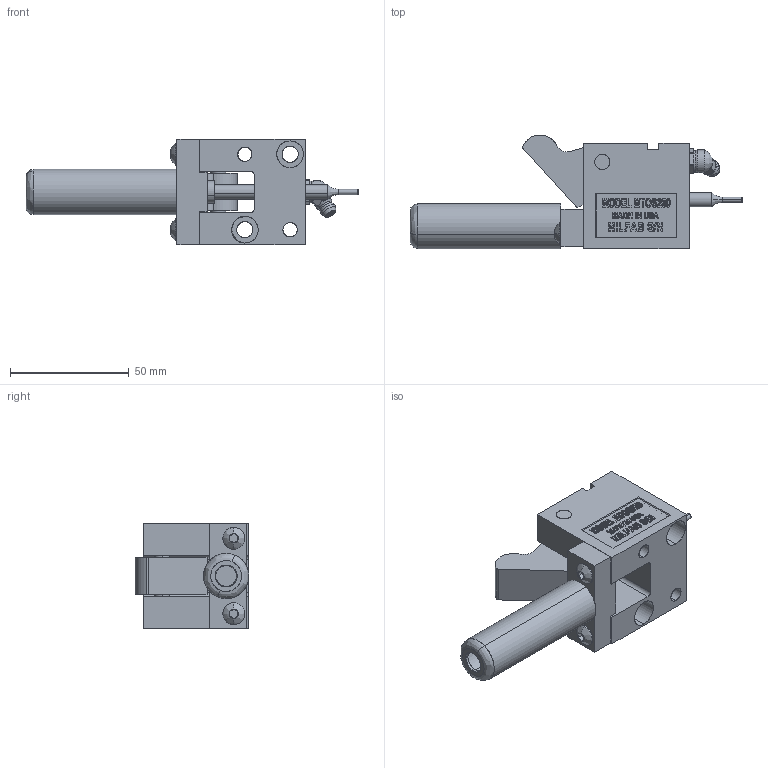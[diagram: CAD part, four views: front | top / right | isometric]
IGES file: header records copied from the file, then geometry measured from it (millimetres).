
Start section: SolidWorks IGES file using analytic representation for surfaces
Global section: file name: Y:\METRIC With OFFSETRIGGER\TOPMOUNT\MTOS25045\OPEN\MTOS25045-O.IGS; native system: SolidWorks 2006 by SolidWorks Corporation; preprocessor: SolidWorks 2006 by SolidWorks Corporation; author: Jim; date: 090121.113136; units: inch
Bounding box: 139.7 x 47.85 x 44.45 mm (x, y, z)
Surface area: 36136.5 mm2 (no closed solid volume)
Topology: 0 solids, 0 shells, 601 faces, 7286 edges, 7282 vertices
Faces by surface type: bspline 489, revolution 112
